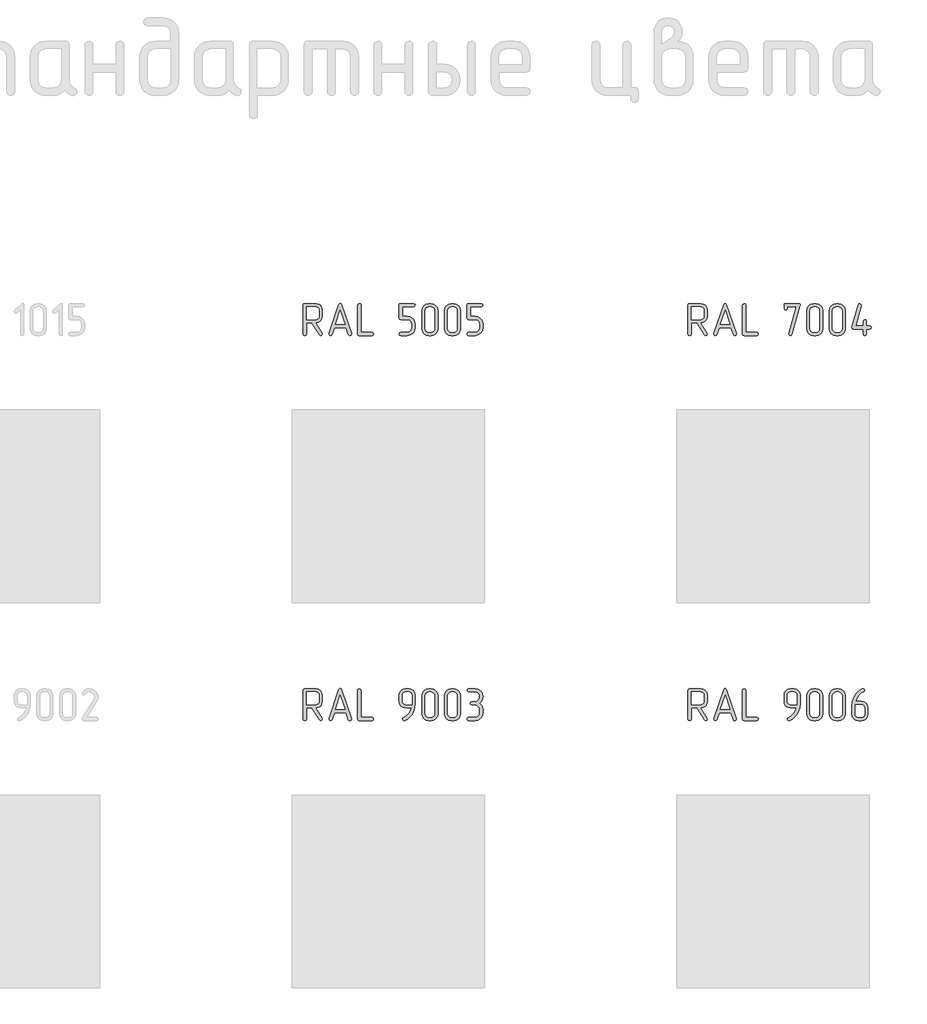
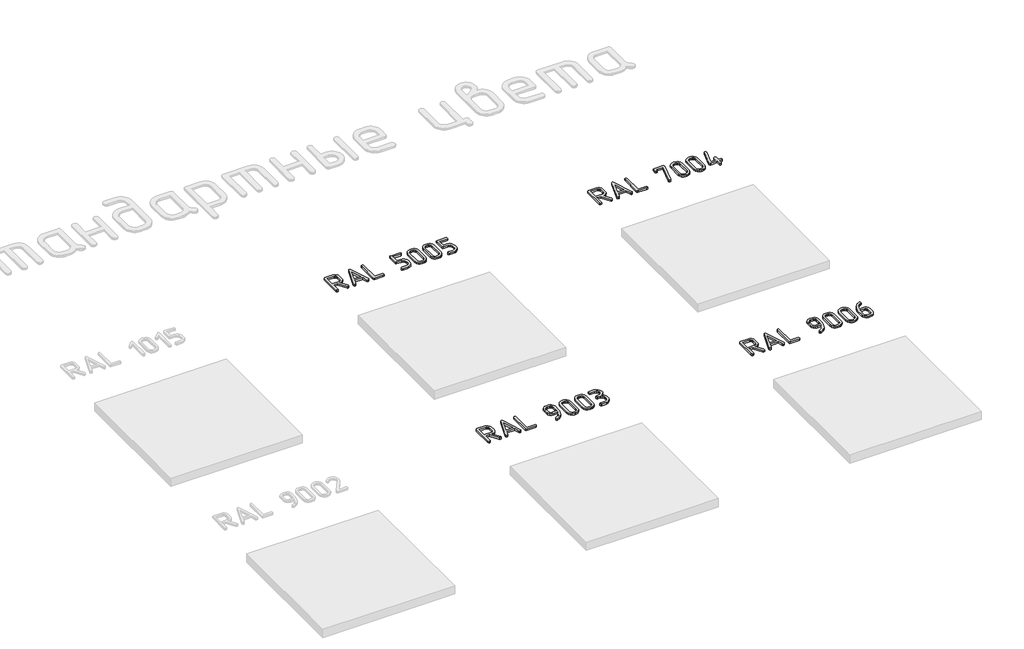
# One storey, part 36 of 37: 4 proxies.
"""IFC4 building model written with IfcOpenShell, lengths in millimetres."""

from ifc_helpers import new_model, si_unit, origin, origin_with_axes, place, context, project, spatial, polyline, outline, extrude, element, save

model = new_model("IFC4")

# Units and contexts
model_context = context("Model", 3, world=origin())
ifc_project = project(units=[si_unit("LENGTHUNIT", "METRE", prefix="MILLI")], contexts=[model_context])

# Site, building, storey
site = spatial("IfcSite", under=ifc_project)
building = spatial("IfcBuilding", under=site)
storey = spatial("IfcBuildingStorey", under=building, Name="Этаж 01", Elevation=0.0)

# Proxies
placement = place(None, origin())
element("IfcBuildingElementProxy", 1, Name="250 мм ГОСТ 2.304", ObjectType="250 мм ГОСТ 2.304", at=placement, inside=storey, context=model_context, shape_type="SweptSolid", body=[
    extrude(outline(polyline([(63439.8621304, -8724.8983844), (63490.1709623, -8805.0546203), (63491.9855844, -8812.3756817), (63488.1686208, -8820.760487), (63479.2206569, -8824.3897311), (63473.4795681, -8822.9349048), (63469.3966685, -8818.5704259), (63410.3275922, -8724.8983844), (63367.7152607, -8724.8983844), (63367.7152607, -8812.0002426), (63364.2424495, -8821.292359), (63355.3257722, -8824.3897311), (63346.3778083, -8821.1046395), (63342.5608447, -8812.0002426), (63342.5608447, -8587.8631332), (63345.7520766, -8578.2894376), (63355.3257722, -8575.0982057), (63442.4276305, -8575.0982057), (63461.5593785, -8578.7430931), (63477.4060348, -8589.6777552), (63488.340697, -8605.8059908), (63491.9855844, -8625.0315986), (63491.9855844, -8674.9649915), (63488.340697, -8694.1905992), (63477.4060348, -8710.3188348), (63461.5593785, -8721.253497), (63442.4276305, -8724.8983844), (63439.8621304, -8724.8983844)]), holes=[polyline([(63367.7152607, -8699.7439684), (63442.4276305, -8699.7439684), (63451.8996447, -8697.9684546), (63459.9168327, -8692.6419131), (63465.3841637, -8684.6716551), (63467.2066074, -8674.9649915), (63467.2066074, -8625.0315986), (63465.3841637, -8615.3249349), (63459.9168327, -8607.3546769), (63451.8996447, -8602.0281355), (63442.4276305, -8600.2526216), (63367.7152607, -8600.2526216), (63367.7152607, -8699.7439684)])]), origin_with_axes(), (0.0, 0.0, 1.0), 20.0),
    extrude(outline(polyline([(63586.5336504, -8761.6914107), (63568.7002958, -8815.6294867), (63564.4922498, -8821.9180907), (63556.9991122, -8824.0142921), (63548.2388678, -8820.7292004), (63544.2341847, -8812.3756817), (63545.3605018, -8807.6201205), (63620.0728717, -8583.483011), (63624.9848658, -8575.5518612), (63631.711482, -8572.9081446), (63638.8135373, -8575.5518612), (63643.3500924, -8583.483011), (63718.4379013, -8807.6201205), (63719.1887793, -8812.3756817), (63715.1840962, -8820.7292004), (63706.4238518, -8824.0142921), (63700.9799857, -8823.3259871), (63694.7852415, -8815.6294867), (63676.8893137, -8761.6914107), (63586.5336504, -8761.6914107)]), holes=[polyline([(63668.5045084, -8736.5369947), (63631.711482, -8626.5333547), (63594.9184557, -8736.5369947), (63668.5045084, -8736.5369947)])]), origin_with_axes(), (0.0, 0.0, 1.0), 20.0),
    extrude(outline(polyline([(63879.3135317, -8824.3897311), (63779.822185, -8824.3897311), (63770.2484894, -8821.292359), (63767.0572575, -8812.0002426), (63767.0572575, -8587.8631332), (63770.7177882, -8578.5710168), (63779.822185, -8575.0982057), (63788.3947099, -8578.3832973), (63792.2116735, -8587.8631332), (63792.2116735, -8799.6107542), (63879.3135317, -8799.6107542), (63888.6056481, -8803.0835653), (63891.7030202, -8812.0002426), (63888.4179286, -8820.5727675), (63879.3135317, -8824.3897311)])), origin_with_axes(), (0.0, 0.0, 1.0), 20.0),
    extrude(outline(polyline([(64116.5910078, -8600.2526216), (64116.5910078, -8674.9649915), (64153.7594731, -8674.9649915), (64177.7015339, -8679.5250115), (64197.8422743, -8693.2050717), (64211.5223344, -8713.3458121), (64216.0823545, -8737.2878728), (64216.0823545, -8762.0668497), (64211.5223344, -8786.0480187), (64197.8422743, -8806.1809375), (64177.7015339, -8819.8375327), (64153.7594731, -8824.3897311), (64104.2015193, -8824.3897311), (64094.9094029, -8820.760487), (64091.4365918, -8812.0002426), (64094.7216834, -8803.2399983), (64104.2015193, -8799.6107542), (64153.7594731, -8799.6107542), (64168.3390227, -8796.7011016), (64180.3843587, -8788.5040158), (64188.393725, -8776.4586798), (64191.3033776, -8762.0668497), (64191.3033776, -8737.2878728), (64188.393725, -8722.7083233), (64180.3843587, -8710.6629873), (64168.3390227, -8702.653621), (64153.7594731, -8699.7439684), (64104.2015193, -8699.7439684), (64094.6278237, -8696.6465963), (64091.4365918, -8687.3544799), (64091.4365918, -8587.8631332), (64094.6278237, -8578.2894376), (64104.2015193, -8575.0982057), (64203.692866, -8575.0982057), (64212.9849824, -8578.7587364), (64216.0823545, -8587.8631332), (64212.7972629, -8596.435658), (64203.692866, -8600.2526216), (64116.5910078, -8600.2526216)])), origin_with_axes(), (0.0, 0.0, 1.0), 20.0),
    extrude(outline(polyline([(64392.2884126, -8769.700777), (64388.2837295, -8790.9443696), (64376.2696801, -8808.7464376), (64358.7491913, -8820.4789077), (64337.5994585, -8824.3897311), (64322.6444699, -8824.3897311), (64301.4478072, -8820.4789077), (64283.6613825, -8808.7464376), (64271.6473331, -8790.9443696), (64267.6426499, -8769.700777), (64267.6426499, -8630.1625988), (64271.6473331, -8609.2005855), (64283.6613825, -8591.4923773), (64301.6042401, -8579.1967486), (64322.6444699, -8575.0982057), (64337.5994585, -8575.0982057), (64358.5536502, -8579.1107105), (64376.2383935, -8591.1482248), (64388.2759078, -8608.9268279), (64392.2884126, -8630.1625988), (64392.2884126, -8769.700777)]), holes=[polyline([(64367.5094357, -8769.700777), (64367.5094357, -8630.1625988), (64365.3193746, -8618.6804214), (64358.7491913, -8609.012866), (64349.0816359, -8602.4426827), (64337.5994585, -8600.2526216), (64322.6444699, -8600.2526216), (64311.1701141, -8602.4426827), (64301.5260237, -8609.012866), (64294.9793053, -8618.6804214), (64292.7970659, -8630.1625988), (64292.7970659, -8769.700777), (64294.9793053, -8781.1829544), (64301.5260237, -8790.8505098), (64311.1701141, -8797.4206931), (64322.6444699, -8799.6107542), (64337.5994585, -8799.6107542), (64349.0816359, -8797.4206931), (64358.7491913, -8790.8505098), (64365.3193746, -8781.1829544), (64367.5094357, -8769.700777)])]), origin_with_axes(), (0.0, 0.0, 1.0), 20.0),
    extrude(outline(polyline([(64568.4944708, -8769.700777), (64564.4897876, -8790.9443696), (64552.4757382, -8808.7464376), (64534.9552495, -8820.4789077), (64513.8055166, -8824.3897311), (64498.850528, -8824.3897311), (64477.6538653, -8820.4789077), (64459.8674406, -8808.7464376), (64447.8533912, -8790.9443696), (64443.848708, -8769.700777), (64443.848708, -8630.1625988), (64447.8533912, -8609.2005855), (64459.8674406, -8591.4923773), (64477.8102983, -8579.1967486), (64498.850528, -8575.0982057), (64513.8055166, -8575.0982057), (64534.7597083, -8579.1107105), (64552.4444516, -8591.1482248), (64564.481966, -8608.9268279), (64568.4944708, -8630.1625988), (64568.4944708, -8769.700777)]), holes=[polyline([(64543.7154938, -8769.700777), (64543.7154938, -8630.1625988), (64541.5254327, -8618.6804214), (64534.9552495, -8609.012866), (64525.2876941, -8602.4426827), (64513.8055166, -8600.2526216), (64498.850528, -8600.2526216), (64487.3761722, -8602.4426827), (64477.7320818, -8609.012866), (64471.1853635, -8618.6804214), (64469.003124, -8630.1625988), (64469.003124, -8769.700777), (64471.1853635, -8781.1829544), (64477.7320818, -8790.8505098), (64487.3761722, -8797.4206931), (64498.850528, -8799.6107542), (64513.8055166, -8799.6107542), (64525.2876941, -8797.4206931), (64534.9552495, -8790.8505098), (64541.5254327, -8781.1829544), (64543.7154938, -8769.700777)])]), origin_with_axes(), (0.0, 0.0, 1.0), 20.0),
    extrude(outline(polyline([(64645.2091821, -8600.2526216), (64645.2091821, -8674.9649915), (64682.3776475, -8674.9649915), (64706.3197082, -8679.5250115), (64726.4604486, -8693.2050717), (64740.1405088, -8713.3458121), (64744.7005289, -8737.2878728), (64744.7005289, -8762.0668497), (64740.1405088, -8786.0480187), (64726.4604486, -8806.1809375), (64706.3197082, -8819.8375327), (64682.3776475, -8824.3897311), (64632.8196937, -8824.3897311), (64623.5275773, -8820.760487), (64620.0547662, -8812.0002426), (64623.3398578, -8803.2399983), (64632.8196937, -8799.6107542), (64682.3776475, -8799.6107542), (64696.9571971, -8796.7011016), (64709.0025331, -8788.5040158), (64717.0118994, -8776.4586798), (64719.921552, -8762.0668497), (64719.921552, -8737.2878728), (64717.0118994, -8722.7083233), (64709.0025331, -8710.6629873), (64696.9571971, -8702.653621), (64682.3776475, -8699.7439684), (64632.8196937, -8699.7439684), (64623.245998, -8696.6465963), (64620.0547662, -8687.3544799), (64620.0547662, -8587.8631332), (64623.245998, -8578.2894376), (64632.8196937, -8575.0982057), (64732.3110404, -8575.0982057), (64741.6031568, -8578.7587364), (64744.7005289, -8587.8631332), (64741.4154372, -8596.435658), (64732.3110404, -8600.2526216), (64645.2091821, -8600.2526216)])), origin_with_axes(), (0.0, 0.0, 1.0), 20.0),
])
element("IfcBuildingElementProxy", 2, Name="250 мм ГОСТ 2.304", ObjectType="250 мм ГОСТ 2.304", at=placement, inside=storey, context=model_context, shape_type="SweptSolid", body=[
    extrude(outline(polyline([(66439.8621304, -8724.8983844), (66490.1709623, -8805.0546203), (66491.9855844, -8812.3756817), (66488.1686208, -8820.760487), (66479.2206569, -8824.3897311), (66473.4795681, -8822.9349048), (66469.3966685, -8818.5704259), (66410.3275922, -8724.8983844), (66367.7152607, -8724.8983844), (66367.7152607, -8812.0002426), (66364.2424495, -8821.292359), (66355.3257722, -8824.3897311), (66346.3778083, -8821.1046395), (66342.5608447, -8812.0002426), (66342.5608447, -8587.8631332), (66345.7520766, -8578.2894376), (66355.3257722, -8575.0982057), (66442.4276305, -8575.0982057), (66461.5593785, -8578.7430931), (66477.4060348, -8589.6777552), (66488.340697, -8605.8059908), (66491.9855844, -8625.0315986), (66491.9855844, -8674.9649915), (66488.340697, -8694.1905992), (66477.4060348, -8710.3188348), (66461.5593785, -8721.253497), (66442.4276305, -8724.8983844), (66439.8621304, -8724.8983844)]), holes=[polyline([(66367.7152607, -8699.7439684), (66442.4276305, -8699.7439684), (66451.8996447, -8697.9684546), (66459.9168327, -8692.6419131), (66465.3841637, -8684.6716551), (66467.2066074, -8674.9649915), (66467.2066074, -8625.0315986), (66465.3841637, -8615.3249349), (66459.9168327, -8607.3546769), (66451.8996447, -8602.0281355), (66442.4276305, -8600.2526216), (66367.7152607, -8600.2526216), (66367.7152607, -8699.7439684)])]), origin_with_axes(), (0.0, 0.0, 1.0), 20.0),
    extrude(outline(polyline([(66586.5336504, -8761.6914107), (66568.7002958, -8815.6294867), (66564.4922498, -8821.9180907), (66556.9991122, -8824.0142921), (66548.2388678, -8820.7292004), (66544.2341847, -8812.3756817), (66545.3605018, -8807.6201205), (66620.0728717, -8583.483011), (66624.9848658, -8575.5518612), (66631.711482, -8572.9081446), (66638.8135373, -8575.5518612), (66643.3500924, -8583.483011), (66718.4379013, -8807.6201205), (66719.1887793, -8812.3756817), (66715.1840962, -8820.7292004), (66706.4238518, -8824.0142921), (66700.9799857, -8823.3259871), (66694.7852415, -8815.6294867), (66676.8893137, -8761.6914107), (66586.5336504, -8761.6914107)]), holes=[polyline([(66668.5045084, -8736.5369947), (66631.711482, -8626.5333547), (66594.9184557, -8736.5369947), (66668.5045084, -8736.5369947)])]), origin_with_axes(), (0.0, 0.0, 1.0), 20.0),
    extrude(outline(polyline([(66879.3135317, -8824.3897311), (66779.822185, -8824.3897311), (66770.2484894, -8821.292359), (66767.0572575, -8812.0002426), (66767.0572575, -8587.8631332), (66770.7177882, -8578.5710168), (66779.822185, -8575.0982057), (66788.3947099, -8578.3832973), (66792.2116735, -8587.8631332), (66792.2116735, -8799.6107542), (66879.3135317, -8799.6107542), (66888.6056481, -8803.0835653), (66891.7030202, -8812.0002426), (66888.4179286, -8820.5727675), (66879.3135317, -8824.3897311)])), origin_with_axes(), (0.0, 0.0, 1.0), 20.0),
    extrude(outline(polyline([(67116.5910078, -8600.2526216), (67116.5910078, -8612.6421101), (67113.1181966, -8621.9342265), (67104.2015193, -8625.0315986), (67095.2535554, -8621.7465069), (67091.4365918, -8612.6421101), (67091.4365918, -8587.8631332), (67094.6278237, -8578.2894376), (67104.2015193, -8575.0982057), (67203.692866, -8575.0982057), (67213.2665617, -8577.6480625), (67216.4577935, -8585.297633), (67216.270074, -8588.0821393), (67215.7069154, -8591.1795114), (67153.3840341, -8815.2540477), (67149.1916314, -8822.1058102), (67141.7454237, -8824.3897311), (67132.6097403, -8821.1046395), (67128.9804962, -8812.3756817), (67129.3559353, -8808.7464376), (67187.2986944, -8600.2526216), (67116.5910078, -8600.2526216)])), origin_with_axes(), (0.0, 0.0, 1.0), 20.0),
    extrude(outline(polyline([(67392.2884126, -8769.700777), (67388.2837295, -8790.9443696), (67376.2696801, -8808.7464376), (67358.7491913, -8820.4789077), (67337.5994585, -8824.3897311), (67322.6444699, -8824.3897311), (67301.4478072, -8820.4789077), (67283.6613825, -8808.7464376), (67271.6473331, -8790.9443696), (67267.6426499, -8769.700777), (67267.6426499, -8630.1625988), (67271.6473331, -8609.2005855), (67283.6613825, -8591.4923773), (67301.6042401, -8579.1967486), (67322.6444699, -8575.0982057), (67337.5994585, -8575.0982057), (67358.5536502, -8579.1107105), (67376.2383935, -8591.1482248), (67388.2759078, -8608.9268279), (67392.2884126, -8630.1625988), (67392.2884126, -8769.700777)]), holes=[polyline([(67367.5094357, -8769.700777), (67367.5094357, -8630.1625988), (67365.3193746, -8618.6804214), (67358.7491913, -8609.012866), (67349.0816359, -8602.4426827), (67337.5994585, -8600.2526216), (67322.6444699, -8600.2526216), (67311.1701141, -8602.4426827), (67301.5260237, -8609.012866), (67294.9793053, -8618.6804214), (67292.7970659, -8630.1625988), (67292.7970659, -8769.700777), (67294.9793053, -8781.1829544), (67301.5260237, -8790.8505098), (67311.1701141, -8797.4206931), (67322.6444699, -8799.6107542), (67337.5994585, -8799.6107542), (67349.0816359, -8797.4206931), (67358.7491913, -8790.8505098), (67365.3193746, -8781.1829544), (67367.5094357, -8769.700777)])]), origin_with_axes(), (0.0, 0.0, 1.0), 20.0),
    extrude(outline(polyline([(67568.4944708, -8769.700777), (67564.4897876, -8790.9443696), (67552.4757382, -8808.7464376), (67534.9552495, -8820.4789077), (67513.8055166, -8824.3897311), (67498.850528, -8824.3897311), (67477.6538653, -8820.4789077), (67459.8674406, -8808.7464376), (67447.8533912, -8790.9443696), (67443.848708, -8769.700777), (67443.848708, -8630.1625988), (67447.8533912, -8609.2005855), (67459.8674406, -8591.4923773), (67477.8102983, -8579.1967486), (67498.850528, -8575.0982057), (67513.8055166, -8575.0982057), (67534.7597083, -8579.1107105), (67552.4444516, -8591.1482248), (67564.481966, -8608.9268279), (67568.4944708, -8630.1625988), (67568.4944708, -8769.700777)]), holes=[polyline([(67543.7154938, -8769.700777), (67543.7154938, -8630.1625988), (67541.5254327, -8618.6804214), (67534.9552495, -8609.012866), (67525.2876941, -8602.4426827), (67513.8055166, -8600.2526216), (67498.850528, -8600.2526216), (67487.3761722, -8602.4426827), (67477.7320818, -8609.012866), (67471.1853635, -8618.6804214), (67469.003124, -8630.1625988), (67469.003124, -8769.700777), (67471.1853635, -8781.1829544), (67477.7320818, -8790.8505098), (67487.3761722, -8797.4206931), (67498.850528, -8799.6107542), (67513.8055166, -8799.6107542), (67525.2876941, -8797.4206931), (67534.9552495, -8790.8505098), (67541.5254327, -8781.1829544), (67543.7154938, -8769.700777)])]), origin_with_axes(), (0.0, 0.0, 1.0), 20.0),
    extrude(outline(polyline([(67732.3110404, -8749.6773613), (67757.0900173, -8749.6773613), (67766.3821337, -8753.1501724), (67769.4795058, -8762.0668497), (67766.3821337, -8770.8270941), (67757.0900173, -8774.4563382), (67732.3110404, -8774.4563382), (67732.3110404, -8812.0002426), (67728.8382293, -8821.292359), (67719.921552, -8824.3897311), (67711.1613076, -8821.1046395), (67707.5320635, -8812.0002426), (67707.5320635, -8774.4563382), (67632.8196937, -8774.4563382), (67622.9644188, -8771.9064814), (67619.6793271, -8764.2569108), (67620.0547662, -8761.3472582), (67620.8056443, -8758.8130447), (67670.3635981, -8584.2338891), (67675.0878727, -8577.4759863), (67682.0022085, -8575.0982057), (67690.9501724, -8578.5710168), (67694.767136, -8587.4876941), (67694.3916969, -8591.1795114), (67649.2138653, -8749.6773613), (67707.5320635, -8749.6773613), (67707.5320635, -8712.1334569), (67710.9735881, -8703.2167795), (67719.921552, -8699.7439684), (67728.4940768, -8703.02906), (67732.3110404, -8712.1334569), (67732.3110404, -8749.6773613)])), origin_with_axes(), (0.0, 0.0, 1.0), 20.0),
])
element("IfcBuildingElementProxy", 3, Name="250 мм ГОСТ 2.304", ObjectType="250 мм ГОСТ 2.304", at=placement, inside=storey, context=model_context, shape_type="SweptSolid", body=[
    extrude(outline(polyline([(63439.8621304, -11724.8983844), (63490.1709623, -11805.0546203), (63491.9855844, -11812.3756817), (63488.1686208, -11820.760487), (63479.2206569, -11824.3897311), (63473.4795681, -11822.9349048), (63469.3966685, -11818.5704259), (63410.3275922, -11724.8983844), (63367.7152607, -11724.8983844), (63367.7152607, -11812.0002426), (63364.2424495, -11821.292359), (63355.3257722, -11824.3897311), (63346.3778083, -11821.1046395), (63342.5608447, -11812.0002426), (63342.5608447, -11587.8631332), (63345.7520766, -11578.2894376), (63355.3257722, -11575.0982057), (63442.4276305, -11575.0982057), (63461.5593785, -11578.7430931), (63477.4060348, -11589.6777552), (63488.340697, -11605.8059908), (63491.9855844, -11625.0315986), (63491.9855844, -11674.9649915), (63488.340697, -11694.1905992), (63477.4060348, -11710.3188348), (63461.5593785, -11721.253497), (63442.4276305, -11724.8983844), (63439.8621304, -11724.8983844)]), holes=[polyline([(63367.7152607, -11699.7439684), (63442.4276305, -11699.7439684), (63451.8996447, -11697.9684546), (63459.9168327, -11692.6419131), (63465.3841637, -11684.6716551), (63467.2066074, -11674.9649915), (63467.2066074, -11625.0315986), (63465.3841637, -11615.3249349), (63459.9168327, -11607.3546769), (63451.8996447, -11602.0281355), (63442.4276305, -11600.2526216), (63367.7152607, -11600.2526216), (63367.7152607, -11699.7439684)])]), origin_with_axes(), (0.0, 0.0, 1.0), 20.0),
    extrude(outline(polyline([(63586.5336504, -11761.6914107), (63568.7002958, -11815.6294867), (63564.4922498, -11821.9180907), (63556.9991122, -11824.0142921), (63548.2388678, -11820.7292004), (63544.2341847, -11812.3756817), (63545.3605018, -11807.6201205), (63620.0728717, -11583.483011), (63624.9848658, -11575.5518612), (63631.711482, -11572.9081446), (63638.8135373, -11575.5518612), (63643.3500924, -11583.483011), (63718.4379013, -11807.6201205), (63719.1887793, -11812.3756817), (63715.1840962, -11820.7292004), (63706.4238518, -11824.0142921), (63700.9799857, -11823.3259871), (63694.7852415, -11815.6294867), (63676.8893137, -11761.6914107), (63586.5336504, -11761.6914107)]), holes=[polyline([(63668.5045084, -11736.5369947), (63631.711482, -11626.5333547), (63594.9184557, -11736.5369947), (63668.5045084, -11736.5369947)])]), origin_with_axes(), (0.0, 0.0, 1.0), 20.0),
    extrude(outline(polyline([(63879.3135317, -11824.3897311), (63779.822185, -11824.3897311), (63770.2484894, -11821.292359), (63767.0572575, -11812.0002426), (63767.0572575, -11587.8631332), (63770.7177882, -11578.5710168), (63779.822185, -11575.0982057), (63788.3947099, -11578.3832973), (63792.2116735, -11587.8631332), (63792.2116735, -11799.6107542), (63879.3135317, -11799.6107542), (63888.6056481, -11803.0835653), (63891.7030202, -11812.0002426), (63888.4179286, -11820.5727675), (63879.3135317, -11824.3897311)])), origin_with_axes(), (0.0, 0.0, 1.0), 20.0),
    extrude(outline(polyline([(64186.5478163, -11724.8983844), (64141.3699847, -11724.8983844), (64122.1443769, -11721.253497), (64106.0161413, -11710.3188348), (64095.0814792, -11694.1905992), (64091.4365918, -11674.9649915), (64091.4365918, -11625.0315986), (64095.0814792, -11605.8059908), (64106.0161413, -11589.6777552), (64122.1443769, -11578.7430931), (64141.3699847, -11575.0982057), (64166.1489616, -11575.0982057), (64185.5622888, -11578.7430931), (64201.5028049, -11589.6777552), (64212.4374671, -11605.8059908), (64216.0823545, -11625.0315986), (64216.0823545, -11686.9790409), (64212.7972629, -11722.0825915), (64202.9419879, -11754.4329225), (64191.0609065, -11776.4430365), (64175.0656389, -11795.7937906), (64155.7070632, -11811.6873768), (64133.7360574, -11823.3259871), (64128.6050572, -11824.3897311), (64120.0638189, -11820.385048), (64116.5910078, -11811.2493645), (64118.4056298, -11804.8981874), (64124.224935, -11800.3616323), (64141.9957164, -11791.0382293), (64157.3887172, -11778.4610213), (64170.0441417, -11762.8959443), (64179.602194, -11744.6089342), (64183.2940113, -11734.9413788), (64186.5478163, -11724.8983844)]), holes=[polyline([(64190.5524995, -11699.3998159), (64190.740219, -11695.2074133), (64191.115658, -11685.5711445), (64191.3033776, -11664.390125), (64191.3033776, -11625.0315986), (64189.4809339, -11615.3249349), (64184.0136028, -11607.3546769), (64175.9025551, -11602.0281355), (64166.1489616, -11600.2526216), (64141.3699847, -11600.2526216), (64131.6633211, -11602.0281355), (64123.693063, -11607.3546769), (64118.3665216, -11615.3249349), (64116.5910078, -11625.0315986), (64116.5910078, -11674.9649915), (64118.3665216, -11684.6716551), (64123.693063, -11692.6419131), (64131.6633211, -11697.9684546), (64141.3699847, -11699.7439684), (64190.5524995, -11699.3998159)])]), origin_with_axes(), (0.0, 0.0, 1.0), 20.0),
    extrude(outline(polyline([(64392.2884126, -11769.700777), (64388.2837295, -11790.9443696), (64376.2696801, -11808.7464376), (64358.7491913, -11820.4789077), (64337.5994585, -11824.3897311), (64322.6444699, -11824.3897311), (64301.4478072, -11820.4789077), (64283.6613825, -11808.7464376), (64271.6473331, -11790.9443696), (64267.6426499, -11769.700777), (64267.6426499, -11630.1625988), (64271.6473331, -11609.2005855), (64283.6613825, -11591.4923773), (64301.6042401, -11579.1967486), (64322.6444699, -11575.0982057), (64337.5994585, -11575.0982057), (64358.5536502, -11579.1107105), (64376.2383935, -11591.1482248), (64388.2759078, -11608.9268279), (64392.2884126, -11630.1625988), (64392.2884126, -11769.700777)]), holes=[polyline([(64367.5094357, -11769.700777), (64367.5094357, -11630.1625988), (64365.3193746, -11618.6804214), (64358.7491913, -11609.012866), (64349.0816359, -11602.4426827), (64337.5994585, -11600.2526216), (64322.6444699, -11600.2526216), (64311.1701141, -11602.4426827), (64301.5260237, -11609.012866), (64294.9793053, -11618.6804214), (64292.7970659, -11630.1625988), (64292.7970659, -11769.700777), (64294.9793053, -11781.1829544), (64301.5260237, -11790.8505098), (64311.1701141, -11797.4206931), (64322.6444699, -11799.6107542), (64337.5994585, -11799.6107542), (64349.0816359, -11797.4206931), (64358.7491913, -11790.8505098), (64365.3193746, -11781.1829544), (64367.5094357, -11769.700777)])]), origin_with_axes(), (0.0, 0.0, 1.0), 20.0),
    extrude(outline(polyline([(64568.4944708, -11769.700777), (64564.4897876, -11790.9443696), (64552.4757382, -11808.7464376), (64534.9552495, -11820.4789077), (64513.8055166, -11824.3897311), (64498.850528, -11824.3897311), (64477.6538653, -11820.4789077), (64459.8674406, -11808.7464376), (64447.8533912, -11790.9443696), (64443.848708, -11769.700777), (64443.848708, -11630.1625988), (64447.8533912, -11609.2005855), (64459.8674406, -11591.4923773), (64477.8102983, -11579.1967486), (64498.850528, -11575.0982057), (64513.8055166, -11575.0982057), (64534.7597083, -11579.1107105), (64552.4444516, -11591.1482248), (64564.481966, -11608.9268279), (64568.4944708, -11630.1625988), (64568.4944708, -11769.700777)]), holes=[polyline([(64543.7154938, -11769.700777), (64543.7154938, -11630.1625988), (64541.5254327, -11618.6804214), (64534.9552495, -11609.012866), (64525.2876941, -11602.4426827), (64513.8055166, -11600.2526216), (64498.850528, -11600.2526216), (64487.3761722, -11602.4426827), (64477.7320818, -11609.012866), (64471.1853635, -11618.6804214), (64469.003124, -11630.1625988), (64469.003124, -11769.700777), (64471.1853635, -11781.1829544), (64477.7320818, -11790.8505098), (64487.3761722, -11797.4206931), (64498.850528, -11799.6107542), (64513.8055166, -11799.6107542), (64525.2876941, -11797.4206931), (64534.9552495, -11790.8505098), (64541.5254327, -11781.1829544), (64543.7154938, -11769.700777)])]), origin_with_axes(), (0.0, 0.0, 1.0), 20.0),
    extrude(outline(polyline([(64681.2513304, -11600.6280607), (64631.3805107, -11600.6280607), (64622.2448273, -11596.9988166), (64618.9910222, -11587.8631332), (64622.2448273, -11579.3218949), (64631.3805107, -11575.4736447), (64681.2513304, -11575.4736447), (64707.5007769, -11580.3074224), (64727.9309182, -11594.8087555), (64739.6633884, -11614.0343632), (64743.5742117, -11637.421087), (64742.0255257, -11652.2431076), (64737.3794675, -11666.0483142), (64729.729897, -11678.2109749), (64719.1706739, -11688.105358), (64737.0353151, -11709.4115238), (64741.9394876, -11722.6535717), (64743.5742117, -11737.2878728), (64743.5742117, -11762.4422888), (64739.0220133, -11786.3843495), (64725.3654181, -11806.5250899), (64705.2324993, -11820.2051501), (64681.2513304, -11824.7651701), (64631.3805107, -11824.7651701), (64622.2448273, -11821.1046395), (64618.9910222, -11812.3756817), (64622.2448273, -11803.4277178), (64631.3805107, -11799.6107542), (64681.2513304, -11799.6107542), (64695.674447, -11796.7011016), (64707.5007769, -11788.6917353), (64715.5414298, -11776.8341188), (64718.482369, -11762.4422888), (64718.482369, -11737.2878728), (64715.5414298, -11722.8960428), (64707.5007769, -11711.0384263), (64695.674447, -11703.02906), (64681.2513304, -11700.1194074), (64656.1594876, -11700.1194074), (64647.2115237, -11696.4901633), (64643.7699991, -11687.729919), (64647.0238042, -11678.9696746), (64656.1594876, -11675.3404305), (64681.2513304, -11675.3404305), (64696.2219623, -11672.3369182), (64708.2203684, -11663.3263811), (64715.3537103, -11651.0933256), (64717.7314909, -11637.045648), (64715.5414298, -11623.1387601), (64708.9712465, -11611.9538052), (64696.9415538, -11603.4594968), (64681.2513304, -11600.6280607)])), origin_with_axes(), (0.0, 0.0, 1.0), 20.0),
])
element("IfcBuildingElementProxy", 4, Name="250 мм ГОСТ 2.304", ObjectType="250 мм ГОСТ 2.304", at=placement, inside=storey, context=model_context, shape_type="SweptSolid", body=[
    extrude(outline(polyline([(66439.8621304, -11724.8983844), (66490.1709623, -11805.0546203), (66491.9855844, -11812.3756817), (66488.1686208, -11820.760487), (66479.2206569, -11824.3897311), (66473.4795681, -11822.9349048), (66469.3966685, -11818.5704259), (66410.3275922, -11724.8983844), (66367.7152607, -11724.8983844), (66367.7152607, -11812.0002426), (66364.2424495, -11821.292359), (66355.3257722, -11824.3897311), (66346.3778083, -11821.1046395), (66342.5608447, -11812.0002426), (66342.5608447, -11587.8631332), (66345.7520766, -11578.2894376), (66355.3257722, -11575.0982057), (66442.4276305, -11575.0982057), (66461.5593785, -11578.7430931), (66477.4060348, -11589.6777552), (66488.340697, -11605.8059908), (66491.9855844, -11625.0315986), (66491.9855844, -11674.9649915), (66488.340697, -11694.1905992), (66477.4060348, -11710.3188348), (66461.5593785, -11721.253497), (66442.4276305, -11724.8983844), (66439.8621304, -11724.8983844)]), holes=[polyline([(66367.7152607, -11699.7439684), (66442.4276305, -11699.7439684), (66451.8996447, -11697.9684546), (66459.9168327, -11692.6419131), (66465.3841637, -11684.6716551), (66467.2066074, -11674.9649915), (66467.2066074, -11625.0315986), (66465.3841637, -11615.3249349), (66459.9168327, -11607.3546769), (66451.8996447, -11602.0281355), (66442.4276305, -11600.2526216), (66367.7152607, -11600.2526216), (66367.7152607, -11699.7439684)])]), origin_with_axes(), (0.0, 0.0, 1.0), 20.0),
    extrude(outline(polyline([(66586.5336504, -11761.6914107), (66568.7002958, -11815.6294867), (66564.4922498, -11821.9180907), (66556.9991122, -11824.0142921), (66548.2388678, -11820.7292004), (66544.2341847, -11812.3756817), (66545.3605018, -11807.6201205), (66620.0728717, -11583.483011), (66624.9848658, -11575.5518612), (66631.711482, -11572.9081446), (66638.8135373, -11575.5518612), (66643.3500924, -11583.483011), (66718.4379013, -11807.6201205), (66719.1887793, -11812.3756817), (66715.1840962, -11820.7292004), (66706.4238518, -11824.0142921), (66700.9799857, -11823.3259871), (66694.7852415, -11815.6294867), (66676.8893137, -11761.6914107), (66586.5336504, -11761.6914107)]), holes=[polyline([(66668.5045084, -11736.5369947), (66631.711482, -11626.5333547), (66594.9184557, -11736.5369947), (66668.5045084, -11736.5369947)])]), origin_with_axes(), (0.0, 0.0, 1.0), 20.0),
    extrude(outline(polyline([(66879.3135317, -11824.3897311), (66779.822185, -11824.3897311), (66770.2484894, -11821.292359), (66767.0572575, -11812.0002426), (66767.0572575, -11587.8631332), (66770.7177882, -11578.5710168), (66779.822185, -11575.0982057), (66788.3947099, -11578.3832973), (66792.2116735, -11587.8631332), (66792.2116735, -11799.6107542), (66879.3135317, -11799.6107542), (66888.6056481, -11803.0835653), (66891.7030202, -11812.0002426), (66888.4179286, -11820.5727675), (66879.3135317, -11824.3897311)])), origin_with_axes(), (0.0, 0.0, 1.0), 20.0),
    extrude(outline(polyline([(67186.5478163, -11724.8983844), (67141.3699847, -11724.8983844), (67122.1443769, -11721.253497), (67106.0161413, -11710.3188348), (67095.0814792, -11694.1905992), (67091.4365918, -11674.9649915), (67091.4365918, -11625.0315986), (67095.0814792, -11605.8059908), (67106.0161413, -11589.6777552), (67122.1443769, -11578.7430931), (67141.3699847, -11575.0982057), (67166.1489616, -11575.0982057), (67185.5622888, -11578.7430931), (67201.5028049, -11589.6777552), (67212.4374671, -11605.8059908), (67216.0823545, -11625.0315986), (67216.0823545, -11686.9790409), (67212.7972629, -11722.0825915), (67202.9419879, -11754.4329225), (67191.0609065, -11776.4430365), (67175.0656389, -11795.7937906), (67155.7070632, -11811.6873768), (67133.7360574, -11823.3259871), (67128.6050572, -11824.3897311), (67120.0638189, -11820.385048), (67116.5910078, -11811.2493645), (67118.4056298, -11804.8981874), (67124.224935, -11800.3616323), (67141.9957164, -11791.0382293), (67157.3887172, -11778.4610213), (67170.0441417, -11762.8959443), (67179.602194, -11744.6089342), (67183.2940113, -11734.9413788), (67186.5478163, -11724.8983844)]), holes=[polyline([(67190.5524995, -11699.3998159), (67190.740219, -11695.2074133), (67191.115658, -11685.5711445), (67191.3033776, -11664.390125), (67191.3033776, -11625.0315986), (67189.4809339, -11615.3249349), (67184.0136028, -11607.3546769), (67175.9025551, -11602.0281355), (67166.1489616, -11600.2526216), (67141.3699847, -11600.2526216), (67131.6633211, -11602.0281355), (67123.693063, -11607.3546769), (67118.3665216, -11615.3249349), (67116.5910078, -11625.0315986), (67116.5910078, -11674.9649915), (67118.3665216, -11684.6716551), (67123.693063, -11692.6419131), (67131.6633211, -11697.9684546), (67141.3699847, -11699.7439684), (67190.5524995, -11699.3998159)])]), origin_with_axes(), (0.0, 0.0, 1.0), 20.0),
    extrude(outline(polyline([(67392.2884126, -11769.700777), (67388.2837295, -11790.9443696), (67376.2696801, -11808.7464376), (67358.7491913, -11820.4789077), (67337.5994585, -11824.3897311), (67322.6444699, -11824.3897311), (67301.4478072, -11820.4789077), (67283.6613825, -11808.7464376), (67271.6473331, -11790.9443696), (67267.6426499, -11769.700777), (67267.6426499, -11630.1625988), (67271.6473331, -11609.2005855), (67283.6613825, -11591.4923773), (67301.6042401, -11579.1967486), (67322.6444699, -11575.0982057), (67337.5994585, -11575.0982057), (67358.5536502, -11579.1107105), (67376.2383935, -11591.1482248), (67388.2759078, -11608.9268279), (67392.2884126, -11630.1625988), (67392.2884126, -11769.700777)]), holes=[polyline([(67367.5094357, -11769.700777), (67367.5094357, -11630.1625988), (67365.3193746, -11618.6804214), (67358.7491913, -11609.012866), (67349.0816359, -11602.4426827), (67337.5994585, -11600.2526216), (67322.6444699, -11600.2526216), (67311.1701141, -11602.4426827), (67301.5260237, -11609.012866), (67294.9793053, -11618.6804214), (67292.7970659, -11630.1625988), (67292.7970659, -11769.700777), (67294.9793053, -11781.1829544), (67301.5260237, -11790.8505098), (67311.1701141, -11797.4206931), (67322.6444699, -11799.6107542), (67337.5994585, -11799.6107542), (67349.0816359, -11797.4206931), (67358.7491913, -11790.8505098), (67365.3193746, -11781.1829544), (67367.5094357, -11769.700777)])]), origin_with_axes(), (0.0, 0.0, 1.0), 20.0),
    extrude(outline(polyline([(67568.4944708, -11769.700777), (67564.4897876, -11790.9443696), (67552.4757382, -11808.7464376), (67534.9552495, -11820.4789077), (67513.8055166, -11824.3897311), (67498.850528, -11824.3897311), (67477.6538653, -11820.4789077), (67459.8674406, -11808.7464376), (67447.8533912, -11790.9443696), (67443.848708, -11769.700777), (67443.848708, -11630.1625988), (67447.8533912, -11609.2005855), (67459.8674406, -11591.4923773), (67477.8102983, -11579.1967486), (67498.850528, -11575.0982057), (67513.8055166, -11575.0982057), (67534.7597083, -11579.1107105), (67552.4444516, -11591.1482248), (67564.481966, -11608.9268279), (67568.4944708, -11630.1625988), (67568.4944708, -11769.700777)]), holes=[polyline([(67543.7154938, -11769.700777), (67543.7154938, -11630.1625988), (67541.5254327, -11618.6804214), (67534.9552495, -11609.012866), (67525.2876941, -11602.4426827), (67513.8055166, -11600.2526216), (67498.850528, -11600.2526216), (67487.3761722, -11602.4426827), (67477.7320818, -11609.012866), (67471.1853635, -11618.6804214), (67469.003124, -11630.1625988), (67469.003124, -11769.700777), (67471.1853635, -11781.1829544), (67477.7320818, -11790.8505098), (67487.3761722, -11797.4206931), (67498.850528, -11799.6107542), (67513.8055166, -11799.6107542), (67525.2876941, -11797.4206931), (67534.9552495, -11790.8505098), (67541.5254327, -11781.1829544), (67543.7154938, -11769.700777)])]), origin_with_axes(), (0.0, 0.0, 1.0), 20.0),
    extrude(outline(polyline([(67649.9647434, -11674.9649915), (67694.767136, -11674.9649915), (67714.1804632, -11678.5160191), (67730.1209793, -11689.169102), (67741.0556415, -11705.3911973), (67744.7005289, -11724.8983844), (67744.7005289, -11774.4563382), (67741.0556415, -11793.9635252), (67730.1209793, -11810.1856206), (67714.1804632, -11820.8387035), (67694.767136, -11824.3897311), (67669.9881591, -11824.3897311), (67650.7625513, -11820.8387035), (67634.6343157, -11810.1856206), (67623.6996536, -11793.9635252), (67620.0547662, -11774.4563382), (67620.0547662, -11712.1334569), (67623.4337176, -11677.5148483), (67633.5705718, -11645.1175874), (67645.4438315, -11623.3812311), (67661.4156342, -11604.1008719), (67680.7663883, -11588.1056042), (67702.7765023, -11576.2245228), (67707.9075025, -11575.0982057), (67716.4487408, -11578.9464559), (67719.921552, -11587.8631332), (67718.0130701, -11594.5428195), (67712.2876247, -11599.1888777), (67694.2978372, -11608.680446), (67678.9986961, -11621.1364185), (67666.3902016, -11636.5567951), (67656.4723535, -11654.9415758), (67649.9647434, -11674.9649915)]), holes=[polyline([(67645.5846212, -11699.7439684), (67645.5846212, -11774.4563382), (67647.3132051, -11784.2099317), (67652.4989569, -11792.3209794), (67660.3284253, -11797.7883105), (67669.9881591, -11799.6107542), (67694.767136, -11799.6107542), (67704.5207295, -11797.7883105), (67712.6317772, -11792.3209794), (67718.0991083, -11784.2099317), (67719.921552, -11774.4563382), (67719.921552, -11724.8983844), (67718.0991083, -11715.1447909), (67712.6317772, -11707.0337432), (67704.5207295, -11701.5664121), (67694.767136, -11699.7439684), (67645.5846212, -11699.7439684)])]), origin_with_axes(), (0.0, 0.0, 1.0), 20.0),
])

save(model, "model.ifc")
